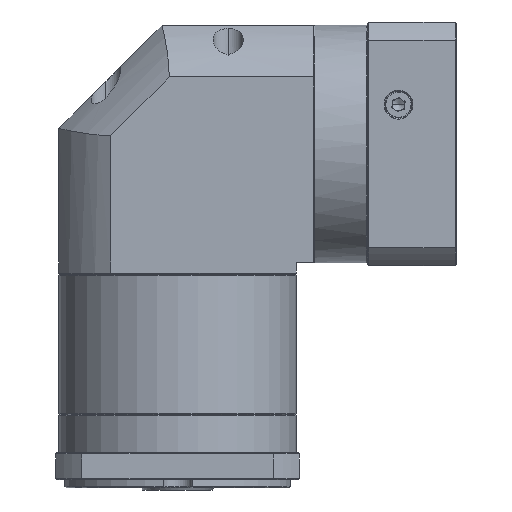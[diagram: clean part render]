
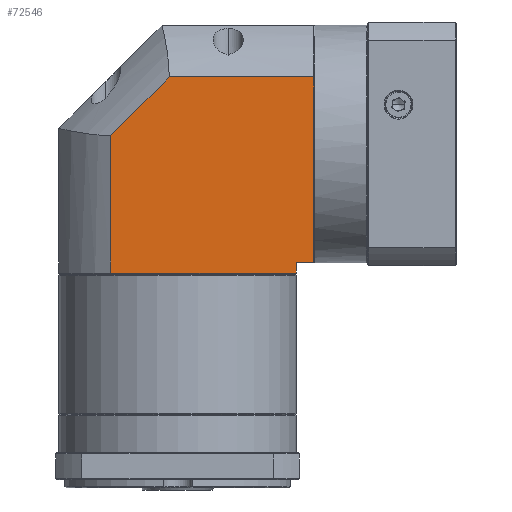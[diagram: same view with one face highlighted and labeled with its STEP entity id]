
A CAD part, front view. The second image highlights one B-rep face of the part: STEP entity #72546.
In plain terms, the highlighted planar face has unit normal (0, -1, 0).
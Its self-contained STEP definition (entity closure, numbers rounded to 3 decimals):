
#4621 = CARTESIAN_POINT ( 'NONE',  ( 0.059, 15.295, 20.503 ) ) ;
#6121 = CARTESIAN_POINT ( 'NONE',  ( 89.959, 15.295, -52.559 ) ) ;
#6529 = CARTESIAN_POINT ( 'NONE',  ( -25.041, 15.295, -46.059 ) ) ;
#9912 = VERTEX_POINT ( 'NONE', #31830 ) ;
#10508 = VERTEX_POINT ( 'NONE', #78772 ) ;
#13677 = CARTESIAN_POINT ( 'NONE',  ( 0.059, 15.295, -52.559 ) ) ;
#16339 = VECTOR ( 'NONE', #82067, 1000. ) ;
#21831 = EDGE_CURVE ( 'NONE', #67101, #79128, #50142, .T. ) ;
#22045 = VECTOR ( 'NONE', #66701, 1000. ) ;
#23811 = VECTOR ( 'NONE', #37777, 1000. ) ;
#28189 = CARTESIAN_POINT ( 'NONE',  ( 98.359, 15.295, -52.559 ) ) ;
#28769 = DIRECTION ( 'NONE',  ( 1., 0., 0. ) ) ;
#28854 = DIRECTION ( 'NONE',  ( 1., 0., 0. ) ) ;
#30155 = ORIENTED_EDGE ( 'NONE', *, *, #107934, .F. ) ;
#31813 = AXIS2_PLACEMENT_3D ( 'NONE', #68663, #69100, #28769 ) ;
#31830 = CARTESIAN_POINT ( 'NONE',  ( 28.397, 15.295, 48.841 ) ) ;
#33241 = ORIENTED_EDGE ( 'NONE', *, *, #113992, .F. ) ;
#35474 = LINE ( 'NONE', #13677, #80388 ) ;
#37155 = VECTOR ( 'NONE', #127771, 1000. ) ;
#37777 = DIRECTION ( 'NONE',  ( 0., 0., -1. ) ) ;
#39800 = FACE_OUTER_BOUND ( 'NONE', #45745, .T. ) ;
#40213 = EDGE_CURVE ( 'NONE', #124603, #9912, #42621, .T. ) ;
#41854 = CARTESIAN_POINT ( 'NONE',  ( 98.359, 15.295, 48.841 ) ) ;
#42621 = LINE ( 'NONE', #4621, #16339 ) ;
#45745 = EDGE_LOOP ( 'NONE', ( #67905, #47315, #119946, #30155, #95421, #33241, #99094 ) ) ;
#47315 = ORIENTED_EDGE ( 'NONE', *, *, #73321, .F. ) ;
#50142 = LINE ( 'NONE', #6529, #22045 ) ;
#53523 = DIRECTION ( 'NONE',  ( 0., 0., 1. ) ) ;
#58926 = CARTESIAN_POINT ( 'NONE',  ( -25.041, 15.295, -41.059 ) ) ;
#58956 = LINE ( 'NONE', #6121, #37155 ) ;
#59699 = CARTESIAN_POINT ( 'NONE',  ( -25.041, 15.295, 48.841 ) ) ;
#60053 = CARTESIAN_POINT ( 'NONE',  ( 0.059, 15.295, -46.059 ) ) ;
#63259 = VECTOR ( 'NONE', #28854, 1000. ) ;
#66701 = DIRECTION ( 'NONE',  ( -1., 0., 0. ) ) ;
#67101 = VERTEX_POINT ( 'NONE', #95217 ) ;
#67615 = VERTEX_POINT ( 'NONE', #41854 ) ;
#67905 = ORIENTED_EDGE ( 'NONE', *, *, #88823, .F. ) ;
#68663 = CARTESIAN_POINT ( 'NONE',  ( -25.041, 15.295, -52.559 ) ) ;
#69100 = DIRECTION ( 'NONE',  ( 0., 1., 0. ) ) ;
#70482 = EDGE_CURVE ( 'NONE', #67615, #10508, #79627, .T. ) ;
#72546 = ADVANCED_FACE ( 'NONE', ( #39800 ), #88131, .F. ) ;
#73321 = EDGE_CURVE ( 'NONE', #10508, #94645, #118686, .T. ) ;
#76063 = CARTESIAN_POINT ( 'NONE',  ( 89.959, 15.295, -41.059 ) ) ;
#78772 = CARTESIAN_POINT ( 'NONE',  ( 98.359, 15.295, -41.059 ) ) ;
#79128 = VERTEX_POINT ( 'NONE', #60053 ) ;
#79627 = LINE ( 'NONE', #28189, #23811 ) ;
#80388 = VECTOR ( 'NONE', #53523, 1000. ) ;
#82067 = DIRECTION ( 'NONE',  ( 0.707, 0., 0.707 ) ) ;
#82898 = VECTOR ( 'NONE', #108291, 1000. ) ;
#88131 = PLANE ( 'NONE',  #31813 ) ;
#88823 = EDGE_CURVE ( 'NONE', #94645, #67101, #58956, .T. ) ;
#89539 = LINE ( 'NONE', #59699, #63259 ) ;
#94645 = VERTEX_POINT ( 'NONE', #76063 ) ;
#95217 = CARTESIAN_POINT ( 'NONE',  ( 89.959, 15.295, -46.059 ) ) ;
#95421 = ORIENTED_EDGE ( 'NONE', *, *, #40213, .F. ) ;
#99094 = ORIENTED_EDGE ( 'NONE', *, *, #21831, .F. ) ;
#101056 = CARTESIAN_POINT ( 'NONE',  ( 0.059, 15.295, 20.503 ) ) ;
#107934 = EDGE_CURVE ( 'NONE', #9912, #67615, #89539, .T. ) ;
#108291 = DIRECTION ( 'NONE',  ( -1., 0., 0. ) ) ;
#113992 = EDGE_CURVE ( 'NONE', #79128, #124603, #35474, .T. ) ;
#118686 = LINE ( 'NONE', #58926, #82898 ) ;
#119946 = ORIENTED_EDGE ( 'NONE', *, *, #70482, .F. ) ;
#124603 = VERTEX_POINT ( 'NONE', #101056 ) ;
#127771 = DIRECTION ( 'NONE',  ( 0., 0., -1. ) ) ;
